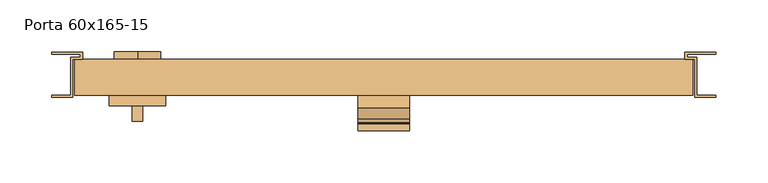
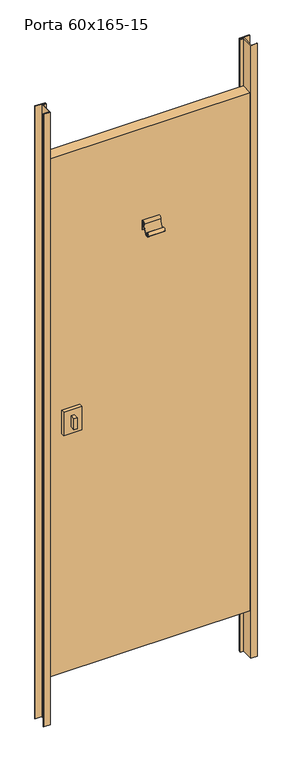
"""IFC4 building model written with IfcOpenShell, lengths in millimetres: door geometry, Porta 60x165-15 : De Abrir_1 (uma) folha."""

from ifc_helpers import new_model, si_unit, point, frame, frame_2d, origin, origin_with_axes, place, context, project, spatial, polyline, circle_curve, trimmed, segment, composite_curve, outline, extrude, source, transform, mapped, element, save


def porta_60x165_15_384a7155(model_context):
    return source(origin(), model_context, "Body", "SweptSolid", [
        extrude(outline(composite_curve([segment(trimmed(circle_curve(frame_2d((950.0, -239.0)), 22.5), [point((927.5, -239.0))], [point((972.5, -239.0))], False, "CARTESIAN"), True, "CONTINUOUS"), segment(trimmed(circle_curve(frame_2d((950.0, -239.0)), 22.5), [point((972.5, -239.0))], [point((927.5, -239.0))], False, "CARTESIAN"), True, "CONTINUOUS")], self_intersect=False)), frame((0.0, 0.0, 0.0), z_axis=(0.0, 1.0, 0.0), x_axis=(0.0, 0.0, 1.0)), (0.0, 0.0, 1.0), 7.4328407),
        extrude(outline(polyline([(-244.0, -60.0), (-244.0, -45.0), (-234.0, -45.0), (-234.0, -60.0), (-244.0, -60.0)])), frame((0.0, 0.0, 932.5), z_axis=(0.0, 0.0, 1.0), x_axis=(1.0, 0.0, 0.0)), (0.0, 0.0, 1.0), 35.0),
        extrude(outline(polyline([(-266.5, -45.0), (-266.5, -35.0), (-211.5, -35.0), (-211.5, -45.0), (-266.5, -45.0)])), frame((0.0, 0.0, 912.5), z_axis=(0.0, 0.0, 1.0), x_axis=(1.0, 0.0, 0.0)), (0.0, 0.0, 1.0), 75.0),
        extrude(outline(composite_curve([segment(trimmed(circle_curve(frame_2d((-41.298616, 1503.1338874)), 4.298616), [point((-37.0, 1503.1338874))], [point((-45.597232, 1503.1338874))], True, "CARTESIAN"), True, "CONTINUOUS"), segment(trimmed(circle_curve(frame_2d((-90.1631226, 1503.1338874)), 44.5658907), [point((-45.597232, 1503.1338874))], [point((-56.0236697, 1474.487485))], False, "CARTESIAN"), True, "CONTINUOUS"), segment(trimmed(circle_curve(frame_2d((-61.9440153, 1479.4552447)), 7.7284622), [point((-56.0236697, 1474.487485))], [point((-67.8643608, 1474.487485))], False, "CARTESIAN"), True, "CONTINUOUS"), segment(trimmed(circle_curve(frame_2d((-63.2967965, 1478.3201265)), 5.9625316), [point((-67.8643608, 1474.487485))], [point((-63.0887072, 1484.2790259))], False, "CARTESIAN"), True, "CONTINUOUS"), segment(trimmed(circle_curve(frame_2d((-63.4109224, 1482.6952637)), 1.6162071), [point((-63.0887072, 1484.2790259))], [point((-62.0901078, 1483.6267002))], False, "CARTESIAN"), True, "CONTINUOUS"), segment(trimmed(circle_curve(frame_2d((-62.4463365, 1482.9606765)), 0.7553055), [point((-62.0901078, 1483.6267002))], [point((-62.5824915, 1482.2177444))], False, "CARTESIAN"), True, "CONTINUOUS"), segment(trimmed(circle_curve(frame_2d((-63.2967965, 1478.3201265)), 3.9625316), [point((-62.5824915, 1482.2177444))], [point((-66.3322719, 1475.7730602))], True, "CARTESIAN"), True, "CONTINUOUS"), segment(trimmed(circle_curve(frame_2d((-61.9440153, 1479.4552447)), 5.7284622), [point((-66.3322719, 1475.7730602))], [point((-57.5557586, 1475.7730602))], True, "CARTESIAN"), True, "CONTINUOUS"), segment(trimmed(circle_curve(frame_2d((-90.1631226, 1503.1338874)), 42.5658907), [point((-57.5557586, 1475.7730602))], [point((-47.597232, 1503.1338874))], True, "CARTESIAN"), True, "CONTINUOUS"), segment(trimmed(circle_curve(frame_2d((-41.298616, 1503.1338874)), 6.298616), [point((-47.597232, 1503.1338874))], [point((-35.0, 1503.1338874))], False, "CARTESIAN"), True, "CONTINUOUS"), segment(polyline([(-35.0, 1503.1338874), (-35.0, 1478.8625069), (-37.0, 1478.8625069), (-37.0, 1503.1338874)]), True, "CONTINUOUS")], self_intersect=False)), frame((-25.0, 0.0, 0.0), z_axis=(1.0, 0.0, 0.0), x_axis=(0.0, 1.0, 0.0)), (0.0, 0.0, 1.0), 50.0),
        extrude(outline(polyline([(300.0, -35.0), (-300.0, -35.0), (-300.0, 0.0), (300.0, 0.0), (300.0, -35.0)])), frame((0.0, 0.0, 150.0), z_axis=(0.0, 0.0, 1.0), x_axis=(1.0, 0.0, 0.0)), (0.0, 0.0, 1.0), 1650.0),
        extrude(outline(polyline([(-302.0, 0.0), (-302.0, -37.0), (-322.0, -37.0), (-322.0, -35.0), (-304.0, -35.0), (-304.0, 2.0), (-294.3964539, 2.0), (-294.3964539, 5.0), (-322.3964539, 5.0), (-322.3964539, 7.0), (-292.0, 7.0), (-292.0, 0.0), (-302.0, 0.0)])), origin_with_axes(), (0.0, 0.0, 1.0), 1950.0),
        extrude(outline(polyline([(302.0, 0.0), (292.0, 0.0), (292.0, 7.0), (322.3964539, 7.0), (322.3964539, 5.0), (294.3964539, 5.0), (294.3964539, 2.0), (304.0, 2.0), (304.0, -35.0), (322.0, -35.0), (322.0, -37.0), (302.0, -37.0), (302.0, 0.0)])), origin_with_axes(), (0.0, 0.0, 1.0), 1950.0),
    ])


if __name__ == "__main__":
    model = new_model("IFC4")
    model_context = context("Model", 3, world=origin())
    ifc_project = project(units=[si_unit("LENGTHUNIT", "METRE", prefix="MILLI")], contexts=[model_context])
    site = spatial("IfcSite", under=ifc_project)
    building = spatial("IfcBuilding", under=site)
    placement = place(None, origin())
    porta_60x165_15_shape = porta_60x165_15_384a7155(model_context)
    element("IfcDoor", 1, ObjectType="Porta 60x165-15 : De Abrir_1 (uma) folha", at=placement, inside=building, context=model_context, shape_type="MappedRepresentation", body=[
        mapped(porta_60x165_15_shape, transform((0.0, 0.0, 0.0), x_axis=(1.0, 0.0, 0.0), y_axis=(0.0, 1.0, 0.0), z_axis=(0.0, 0.0, 1.0))),
    ])
    save(model, "model.ifc")
